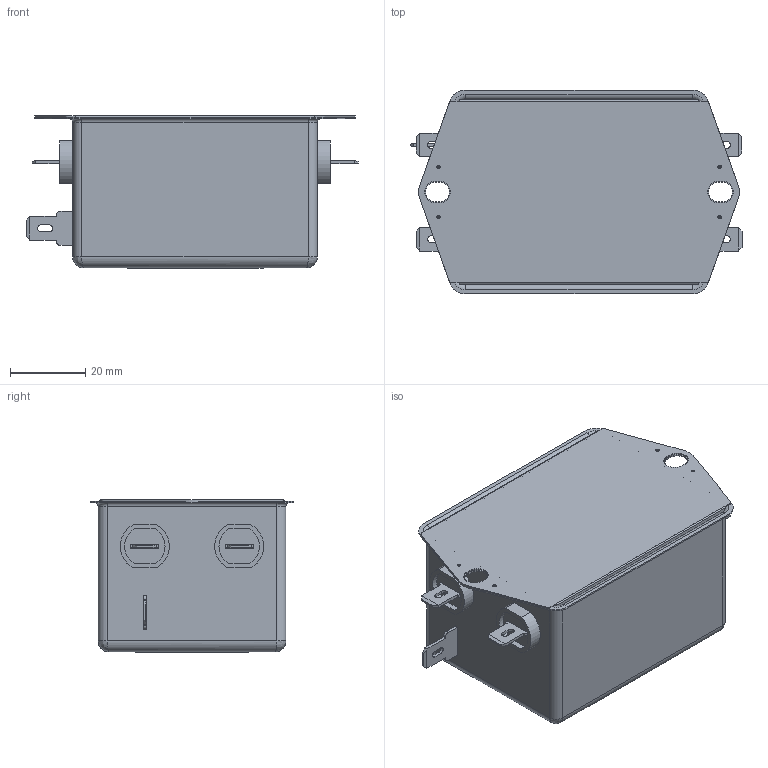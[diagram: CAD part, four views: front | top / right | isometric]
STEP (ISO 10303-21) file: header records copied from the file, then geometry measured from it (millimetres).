
FILE_DESCRIPTION((''),'2;1');
FILE_NAME('D:\_ PRODUCT\New project\3D request\800576_FN2070-3-06\FN2070-3-06.stp','2013-09-04T17:13:39',('sayan.penton'),(''),'Autodesk Inventor 2010','Autodesk Inventor 2010','');
FILE_SCHEMA(('AUTOMOTIVE_DESIGN { 1 0 10303 214 1 1 1 1 }'));
Length unit declared in the file: millimetre
Products named in the file (1): Part17
Bounding box: 88 x 54 x 40.35 mm (x, y, z)
Volume: 8173.3 mm3; surface area: 34574.9 mm2
Topology: 1 solids, 5 shells, 850 faces, 2268 edges, 1452 vertices
Faces by surface type: plane 352, bspline 325, cylinder 161, torus 8, sphere 4
Full cylindrical faces by diameter (mm): 2.5 x2
Entity records: 35323 total; most frequent: CARTESIAN_POINT 15029, ORIENTED_EDGE 4464, DIRECTION 3338, EDGE_CURVE 2232, VERTEX_POINT 1440, VECTOR 1386, LINE 1386, AXIS2_PLACEMENT_3D 976
